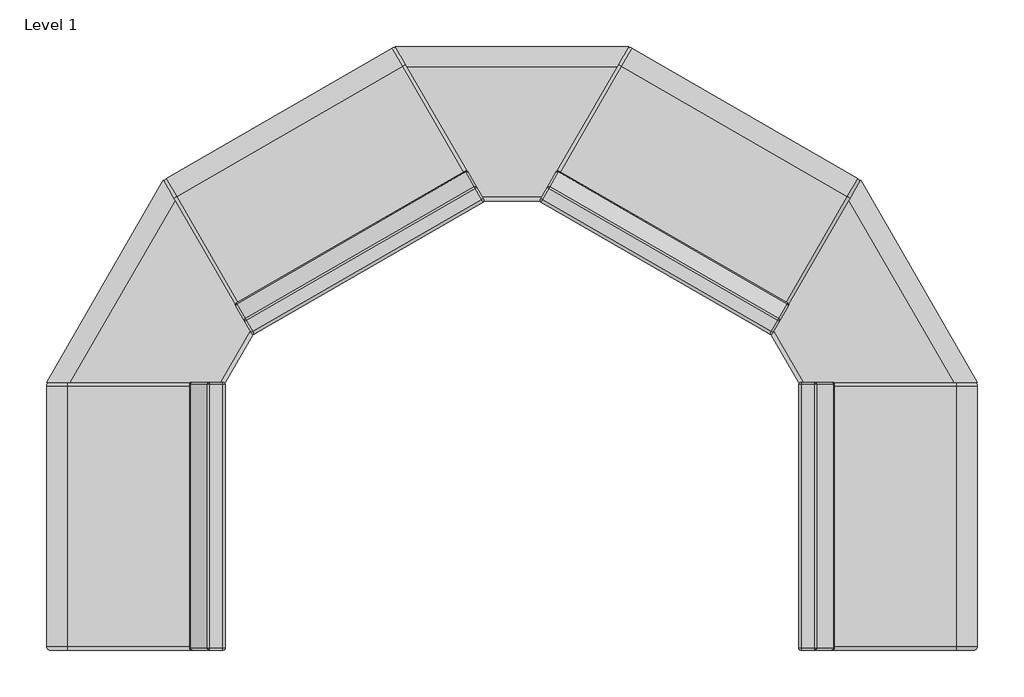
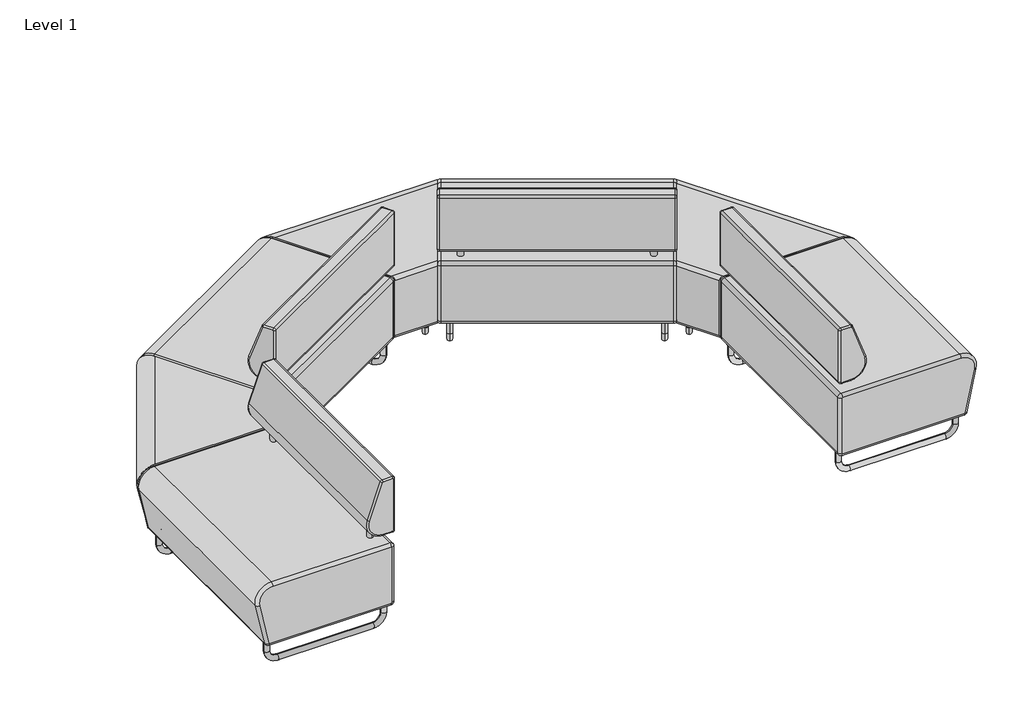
# One storey: 7 furniture elements.
"""IFC4 building model written with IfcOpenShell, lengths in millimetres."""

from ifc_helpers import new_model, si_unit, origin, place, context, project, spatial, transform, mapped, element, save
from components import lounge_seat_ki_hub_0f860df9, lounge_seat_ki_hub_ottoman_b643156a

model = new_model("IFC4")

# Units and contexts
model_context = context("Model", 3, world=origin())
ifc_project = project(units=[si_unit("LENGTHUNIT", "METRE", prefix="MILLI")], contexts=[model_context])

# Site, building, storey
site = spatial("IfcSite", under=ifc_project)
building = spatial("IfcBuilding", under=site)
storey = spatial("IfcBuildingStorey", under=building, Name="Level 1", Elevation=0.0)

# Furniture
placement = place(None, origin())
lounge_seat_ki_hub_shape = lounge_seat_ki_hub_0f860df9(model_context)
element("IfcFurniture", 1, ObjectType="Lounge-Seat-KI-Hub : 39\"W, Armless, Contrast", at=placement, inside=storey, context=model_context, shape_type="MappedRepresentation", body=[
    mapped(lounge_seat_ki_hub_shape, transform((2816.727784, 2894.9047445, 0.0), x_axis=(-0.8660254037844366, 0.5000000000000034, 0.0), y_axis=(-0.5000000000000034, -0.8660254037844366, 0.0), z_axis=(0.0, 0.0, 1.0))),
])
element("IfcFurniture", 2, ObjectType="Lounge-Seat-KI-Hub : 39\"W, Armless, Contrast", at=placement, inside=storey, context=model_context, shape_type="MappedRepresentation", body=[
    mapped(lounge_seat_ki_hub_shape, transform((1425.443019, 2894.9047445, 0.0), x_axis=(-0.8660254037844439, -0.4999999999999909, 0.0), y_axis=(0.4999999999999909, -0.8660254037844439, 0.0), z_axis=(0.0, 0.0, 1.0))),
])
element("IfcFurniture", 3, ObjectType="Lounge-Seat-KI-Hub : 39\"W, Armless, Contrast", at=placement, inside=storey, context=model_context, shape_type="MappedRepresentation", body=[
    mapped(lounge_seat_ki_hub_shape, transform((729.8006365, 1690.0167941, 0.0), x_axis=(0.0, -1.0, 0.0), y_axis=(1.0, 0.0, 0.0), z_axis=(0.0, 0.0, 1.0))),
])
element("IfcFurniture", 4, ObjectType="Lounge-Seat-KI-Hub : 39\"W, Armless, Contrast", at=placement, inside=storey, context=model_context, shape_type="MappedRepresentation", body=[
    mapped(lounge_seat_ki_hub_shape, transform((3512.3701664, 1690.0167941, 0.0), x_axis=(0.0, 1.0, 0.0), y_axis=(-1.0, 0.0, 0.0), z_axis=(0.0, 0.0, 1.0))),
])
lounge_seat_ki_hub_ottoman_shape = lounge_seat_ki_hub_ottoman_b643156a(model_context)
element("IfcFurniture", 5, ObjectType="Lounge-Seat-KI-Hub-Ottoman : 60\x9d\x9d° Wedge - Outside", at=placement, inside=storey, context=model_context, shape_type="MappedRepresentation", body=[
    mapped(lounge_seat_ki_hub_ottoman_shape, transform((2121.0854015, 3142.5547445, 0.0), x_axis=(1.0, 0.0, 0.0), y_axis=(0.0, 1.0, 0.0), z_axis=(0.0, 0.0, 1.0))),
])
element("IfcFurniture", 6, ObjectType="Lounge-Seat-KI-Hub-Ottoman : 60\x9d\x9d° Wedge - Outside", at=placement, inside=storey, context=model_context, shape_type="MappedRepresentation", body=[
    mapped(lounge_seat_ki_hub_ottoman_shape, transform((863.1506365, 2416.2857693, 0.0), x_axis=(0.5000000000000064, 0.8660254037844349, 0.0), y_axis=(-0.8660254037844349, 0.5000000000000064, 0.0), z_axis=(0.0, 0.0, 1.0))),
])
element("IfcFurniture", 7, ObjectType="Lounge-Seat-KI-Hub-Ottoman : 60\x9d\x9d° Wedge - Outside", at=placement, inside=storey, context=model_context, shape_type="MappedRepresentation", body=[
    mapped(lounge_seat_ki_hub_ottoman_shape, transform((3379.0201664, 2416.2857693, 0.0), x_axis=(0.5000000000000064, -0.8660254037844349, 0.0), y_axis=(0.8660254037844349, 0.5000000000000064, 0.0), z_axis=(0.0, 0.0, 1.0))),
])

save(model, "model.ifc")
